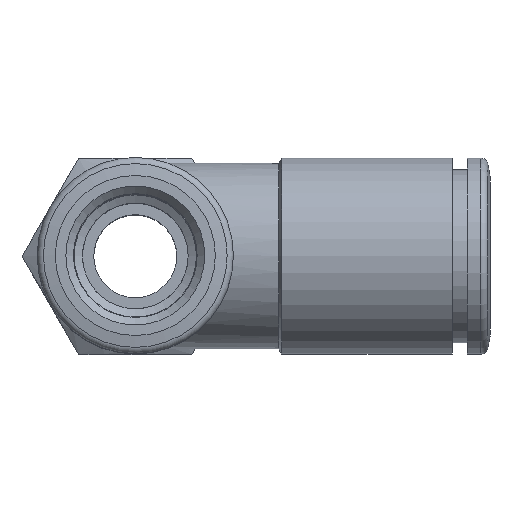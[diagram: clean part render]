
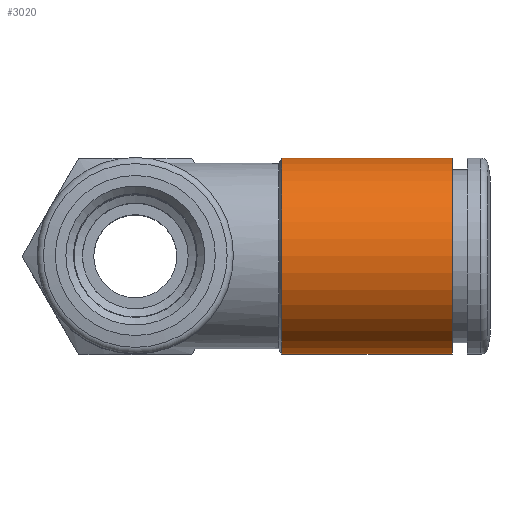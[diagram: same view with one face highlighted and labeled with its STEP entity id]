
A CAD part, top view. The second image highlights one B-rep face of the part: STEP entity #3020.
In plain terms, the highlighted cylindrical face has radius 6.5 mm (diameter 13 mm), a full revolution.
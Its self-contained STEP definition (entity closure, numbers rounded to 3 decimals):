
#3020=ADVANCED_FACE('', (#3030,#3040), #3050, .T.);
#10490=AXIS2_PLACEMENT_3D('Ax2Pl3d', #10500, #10510, #10520);
#10530=AXIS2_PLACEMENT_3D('Ax2Pl3d', #10540, #10550, #10560);
#10570=AXIS2_PLACEMENT_3D('Ax2Pl3d', #10580, #10590, #10600);
#10500=CARTESIAN_POINT('HicPkt', (30.152,12.801,
29.44));
#10540=CARTESIAN_POINT('HicPkt', (30.152,12.801,
29.44));
#15930=CARTESIAN_POINT('', (30.152,6.301,29.44));
#10580=CARTESIAN_POINT('HicPkt', (41.45,12.801,
29.44));
#15940=CARTESIAN_POINT('', (41.45,12.801,22.94));
#16850=CIRCLE('Circle', #10530, 6.5);
#16860=CIRCLE('Circle', #10570, 6.5);
#3050=CYLINDRICAL_SURFACE('Zyl', #10490, 6.5);
#10510=DIRECTION('Axis', (1.,0.,0.));
#10520=DIRECTION('RefDirection', (0.,0.,-1.));
#10550=DIRECTION('Axis', (1.,0.,0.));
#10560=DIRECTION('RefDirection', (0.,0.,-1.));
#10590=DIRECTION('Axis', (1.,0.,0.));
#10600=DIRECTION('RefDirection', (0.,0.,-1.));
#22940=EDGE_CURVE('', #22950, #22950, #16850, .T.);
#22960=EDGE_CURVE('', #22970, #22970, #16860, .T.);
#26670=EDGE_LOOP('Edge_loop', (#26680));
#26690=EDGE_LOOP('Edge_loop', (#26700));
#3040=FACE_BOUND('', #26690, .T.);
#3030=FACE_OUTER_BOUND('Face_outer_bound', #26670, .T.);
#26680=ORIENTED_EDGE('', *, *, #22940, .T.);
#26700=ORIENTED_EDGE('', *, *, #22960, .F.);
#22950=VERTEX_POINT('', #15930);
#22970=VERTEX_POINT('', #15940);
